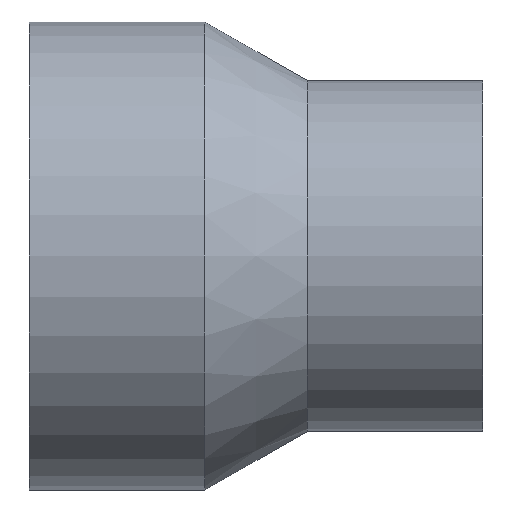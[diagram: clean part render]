
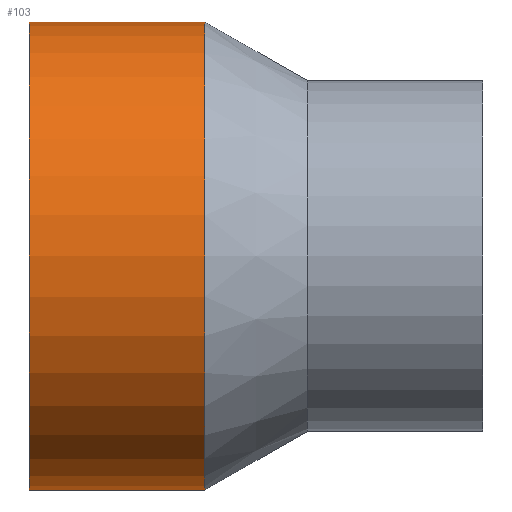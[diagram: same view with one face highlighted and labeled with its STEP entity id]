
A CAD part, front view. The second image highlights one B-rep face of the part: STEP entity #103.
In plain terms, the highlighted cylindrical face has radius 50.8 mm (diameter 101.6 mm), a partial arc.
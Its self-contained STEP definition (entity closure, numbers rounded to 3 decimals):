
#5 = LINE ( 'NONE', #291, #392 ) ;
#18 = DIRECTION ( 'NONE',  ( 0., 0., 1. ) ) ;
#23 = CARTESIAN_POINT ( 'NONE',  ( -63.937, 0., 0. ) ) ;
#31 = EDGE_CURVE ( 'NONE', #314, #320, #112, .T. ) ;
#38 = AXIS2_PLACEMENT_3D ( 'NONE', #23, #339, #382 ) ;
#39 = DIRECTION ( 'NONE',  ( -1., 0., 0. ) ) ;
#47 = DIRECTION ( 'NONE',  ( -1., 0., 0. ) ) ;
#55 = CYLINDRICAL_SURFACE ( 'NONE', #38, 50.8 ) ;
#66 = ORIENTED_EDGE ( 'NONE', *, *, #255, .T. ) ;
#69 = CIRCLE ( 'NONE', #101, 50.8 ) ;
#89 = CARTESIAN_POINT ( 'NONE',  ( 38.1, 0., 0. ) ) ;
#93 = VERTEX_POINT ( 'NONE', #132 ) ;
#98 = CARTESIAN_POINT ( 'NONE',  ( 0., 0., -50.8 ) ) ;
#101 = AXIS2_PLACEMENT_3D ( 'NONE', #261, #39, #114 ) ;
#103 = ADVANCED_FACE ( 'NONE', ( #221 ), #55, .T. ) ;
#104 = VERTEX_POINT ( 'NONE', #98 ) ;
#112 = CIRCLE ( 'NONE', #244, 50.8 ) ;
#114 = DIRECTION ( 'NONE',  ( 0., 0., 1. ) ) ;
#122 = EDGE_LOOP ( 'NONE', ( #216, #205, #66, #274 ) ) ;
#127 = DIRECTION ( 'NONE',  ( -1., 0., 0. ) ) ;
#129 = CARTESIAN_POINT ( 'NONE',  ( 38.1, 0., -50.8 ) ) ;
#132 = CARTESIAN_POINT ( 'NONE',  ( 0., 0., 50.8 ) ) ;
#199 = CARTESIAN_POINT ( 'NONE',  ( -63.937, 0., 50.8 ) ) ;
#205 = ORIENTED_EDGE ( 'NONE', *, *, #31, .T. ) ;
#216 = ORIENTED_EDGE ( 'NONE', *, *, #389, .F. ) ;
#221 = FACE_OUTER_BOUND ( 'NONE', #122, .T. ) ;
#244 = AXIS2_PLACEMENT_3D ( 'NONE', #89, #47, #18 ) ;
#255 = EDGE_CURVE ( 'NONE', #320, #93, #308, .T. ) ;
#261 = CARTESIAN_POINT ( 'NONE',  ( 0., 0., 0. ) ) ;
#274 = ORIENTED_EDGE ( 'NONE', *, *, #327, .F. ) ;
#291 = CARTESIAN_POINT ( 'NONE',  ( -63.937, 0., -50.8 ) ) ;
#308 = LINE ( 'NONE', #199, #315 ) ;
#314 = VERTEX_POINT ( 'NONE', #129 ) ;
#315 = VECTOR ( 'NONE', #407, 1000. ) ;
#320 = VERTEX_POINT ( 'NONE', #326 ) ;
#326 = CARTESIAN_POINT ( 'NONE',  ( 38.1, 0., 50.8 ) ) ;
#327 = EDGE_CURVE ( 'NONE', #104, #93, #69, .T. ) ;
#339 = DIRECTION ( 'NONE',  ( -1., 0., 0. ) ) ;
#382 = DIRECTION ( 'NONE',  ( 0., 0., 1. ) ) ;
#389 = EDGE_CURVE ( 'NONE', #314, #104, #5, .T. ) ;
#392 = VECTOR ( 'NONE', #127, 1000. ) ;
#407 = DIRECTION ( 'NONE',  ( -1., 0., 0. ) ) ;
